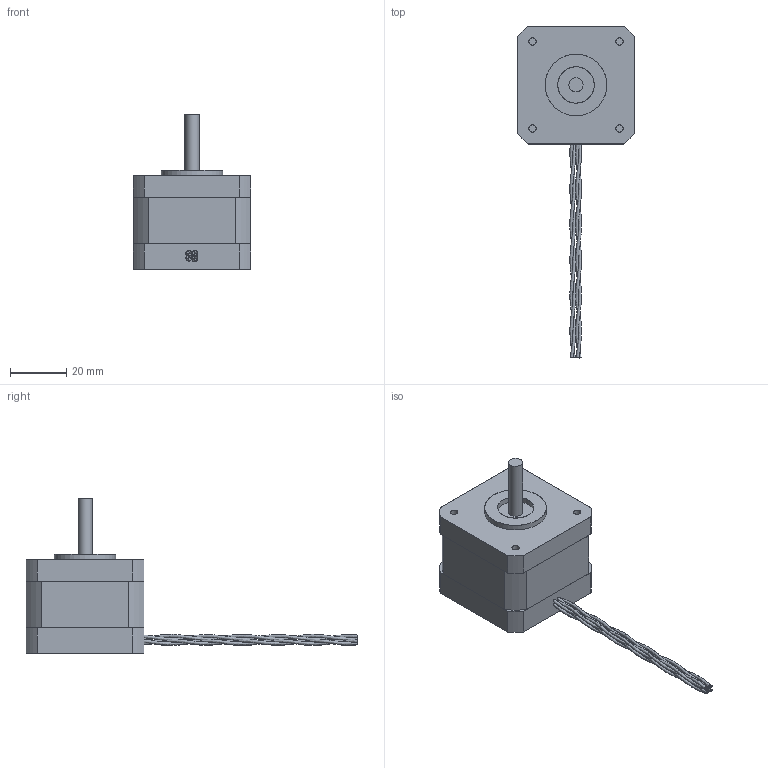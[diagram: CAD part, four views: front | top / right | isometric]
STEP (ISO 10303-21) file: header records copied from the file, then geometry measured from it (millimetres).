
FILE_DESCRIPTION(/* description */ ('Alibre Inc.'),/* implementation_level */ '2;1');
FILE_NAME(/* name */ 'export0',/* time_stamp */ '2018-01-03T10:02:35-08:00',/* author */ (''),/* organization */ (''),/* preprocessor_version */ 'ST-DEVELOPER v14',/* originating_system */ 'Alibre',/* authorisation */ '');
FILE_SCHEMA (('AUTOMOTIVE_DESIGN'));
Length unit declared in the file: centimetre
Bounding box: 42 x 118.2 x 55.04 mm (x, y, z)
Volume: 58225.9 mm3; surface area: 22765.1 mm2
Topology: 14 solids, 14 shells, 95 faces, 197 edges, 132 vertices
Faces by surface type: plane 46, cylinder 33, bspline 16
Full cylindrical faces by diameter (mm): 2.616 x12, 5 x1, 12.954 x2, 22 x2
Entity records: 2543 total; most frequent: CARTESIAN_POINT 656, DIRECTION 371, ORIENTED_EDGE 272, AXIS2_PLACEMENT_3D 168, EDGE_CURVE 136, EDGE_LOOP 112, FACE_BOUND 112, VERTEX_POINT 102
